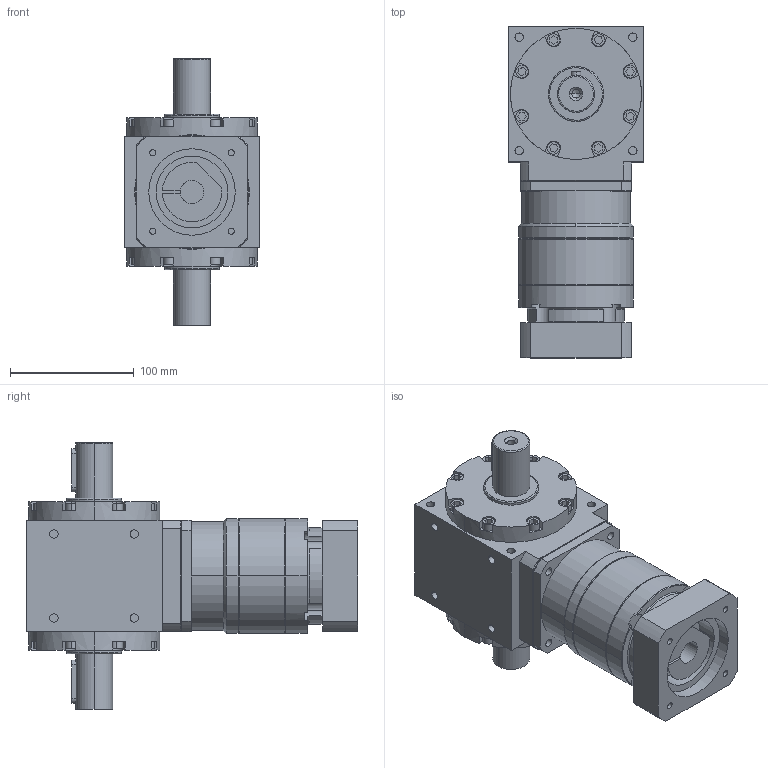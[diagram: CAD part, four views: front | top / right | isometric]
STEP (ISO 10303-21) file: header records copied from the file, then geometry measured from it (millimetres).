
FILE_DESCRIPTION (( 'STEP AP203' ), '1' );
FILE_NAME ('AAW110AS-L2-2P 19-70-90-M6.STEP', '2024-12-24T03:39:50', ( '' ), ( '' ), 'SwSTEP 2.0', 'SolidWorks 2021', '' );
FILE_SCHEMA (( 'CONFIG_CONTROL_DESIGN' ));
Length unit declared in the file: millimetre
Products named in the file (3): AAW110AS-L2-2P 19-70-90-M6; VRB-090-L2-S2-P1 19-70-90-M6; AAW110AS-2P
Assembly tree (2 placements, depth 2):
  AAW110AS-L2-2P 19-70-90-M6
    AAW110AS-2P
    VRB-090-L2-S2-P1 19-70-90-M6
Bounding box: 110 x 268.5 x 216 mm (x, y, z)
Volume: 2429968.4 mm3; surface area: 181628.5 mm2
Topology: 2 solids, 2 shells, 491 faces, 1202 edges, 783 vertices
Faces by surface type: plane 258, cylinder 180, cone 47, bspline 6
Entity records: 15034 total; most frequent: CARTESIAN_POINT 2835, DIRECTION 2579, ORIENTED_EDGE 2396, EDGE_CURVE 1198, AXIS2_PLACEMENT_3D 943, VERTEX_POINT 783, VECTOR 693, LINE 693
